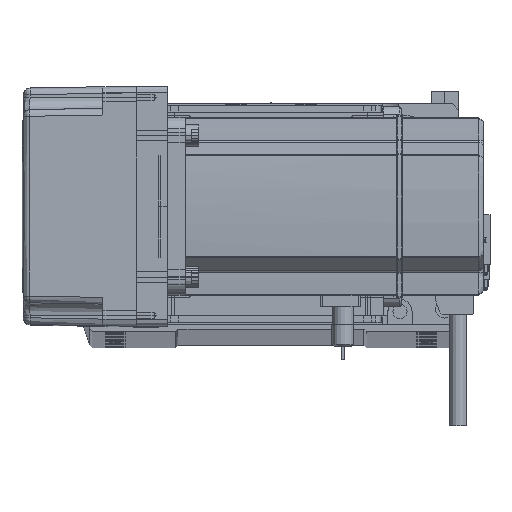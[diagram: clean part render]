
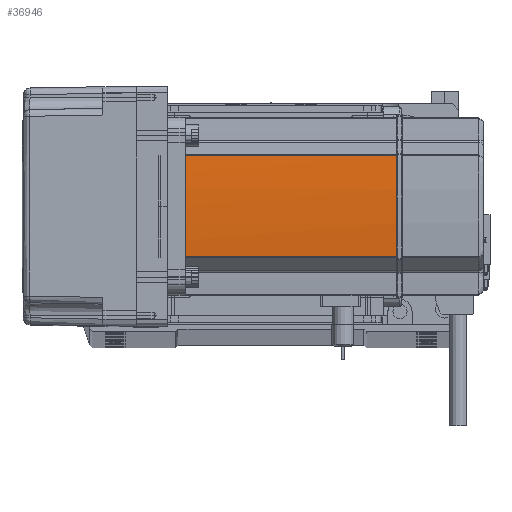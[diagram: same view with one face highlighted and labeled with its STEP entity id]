
A CAD part, top view. The second image highlights one B-rep face of the part: STEP entity #36946.
In plain terms, the highlighted cylindrical face has radius 270 mm (diameter 540 mm), a partial arc.
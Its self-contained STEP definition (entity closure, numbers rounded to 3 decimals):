
#501 = CIRCLE ( 'NONE', #31346, 270. ) ;
#2294 = DIRECTION ( 'NONE',  ( 0., 0., 1. ) ) ;
#4199 = CARTESIAN_POINT ( 'NONE',  ( 40., 0.127, 134. ) ) ;
#4464 = VERTEX_POINT ( 'NONE', #30022 ) ;
#5119 = DIRECTION ( 'NONE',  ( -1., 0., 0. ) ) ;
#6006 = FACE_OUTER_BOUND ( 'NONE', #12716, .T. ) ;
#7831 = CARTESIAN_POINT ( 'NONE',  ( 40., -0.127, 134. ) ) ;
#7976 = AXIS2_PLACEMENT_3D ( 'NONE', #52425, #36136, #9033 ) ;
#8602 = CARTESIAN_POINT ( 'NONE',  ( 39.042, 22.724, 134. ) ) ;
#8785 = CARTESIAN_POINT ( 'NONE',  ( -230., 0., 39. ) ) ;
#9033 = DIRECTION ( 'NONE',  ( -1., 0., 0. ) ) ;
#9258 = ORIENTED_EDGE ( 'NONE', *, *, #16757, .F. ) ;
#10637 = CARTESIAN_POINT ( 'NONE',  ( 39.042, -22.724, 134. ) ) ;
#10955 = ORIENTED_EDGE ( 'NONE', *, *, #68820, .T. ) ;
#11964 = EDGE_CURVE ( 'NONE', #37990, #4464, #57729, .T. ) ;
#12716 = EDGE_LOOP ( 'NONE', ( #10955, #9258, #29397, #34534, #61562, #45984 ) ) ;
#13558 = B_SPLINE_CURVE_WITH_KNOTS ( 'NONE', 3,
 ( #7831, #45952, #25895, #4199 ),
 .UNSPECIFIED., .F., .F.,
 ( 4, 4 ),
 ( 0., 1. ),
 .UNSPECIFIED. ) ;
#14338 = DIRECTION ( 'NONE',  ( 0., 0., -1. ) ) ;
#16757 = EDGE_CURVE ( 'NONE', #45433, #50224, #501, .T. ) ;
#18178 = AXIS2_PLACEMENT_3D ( 'NONE', #24353, #14338, #67901 ) ;
#21982 = AXIS2_PLACEMENT_3D ( 'NONE', #32458, #54657, #5119 ) ;
#24353 = CARTESIAN_POINT ( 'NONE',  ( -230., 0., 134. ) ) ;
#25741 = VECTOR ( 'NONE', #64150, 1000. ) ;
#25895 = CARTESIAN_POINT ( 'NONE',  ( 40., 0.042, 134. ) ) ;
#29397 = ORIENTED_EDGE ( 'NONE', *, *, #54634, .T. ) ;
#30022 = CARTESIAN_POINT ( 'NONE',  ( 40., 0.127, 134. ) ) ;
#31140 = EDGE_CURVE ( 'NONE', #34997, #4464, #13558, .T. ) ;
#31346 = AXIS2_PLACEMENT_3D ( 'NONE', #8785, #46896, #52401 ) ;
#31643 = LINE ( 'NONE', #42522, #25741 ) ;
#32458 = CARTESIAN_POINT ( 'NONE',  ( -230., 0., 134. ) ) ;
#34534 = ORIENTED_EDGE ( 'NONE', *, *, #11964, .T. ) ;
#34997 = VERTEX_POINT ( 'NONE', #40205 ) ;
#36136 = DIRECTION ( 'NONE',  ( 0., 0., -1. ) ) ;
#36946 = ADVANCED_FACE ( 'NONE', ( #6006 ), #69058, .T. ) ;
#37990 = VERTEX_POINT ( 'NONE', #8602 ) ;
#40190 = VECTOR ( 'NONE', #2294, 1000. ) ;
#40205 = CARTESIAN_POINT ( 'NONE',  ( 40., -0.127, 134. ) ) ;
#41303 = EDGE_CURVE ( 'NONE', #34997, #43083, #46799, .T. ) ;
#42522 = CARTESIAN_POINT ( 'NONE',  ( 39.042, -22.724, 58. ) ) ;
#43083 = VERTEX_POINT ( 'NONE', #10637 ) ;
#45433 = VERTEX_POINT ( 'NONE', #46012 ) ;
#45952 = CARTESIAN_POINT ( 'NONE',  ( 40., -0.042, 134. ) ) ;
#45984 = ORIENTED_EDGE ( 'NONE', *, *, #41303, .T. ) ;
#46012 = CARTESIAN_POINT ( 'NONE',  ( 39.042, 22.724, 39. ) ) ;
#46799 = CIRCLE ( 'NONE', #18178, 270. ) ;
#46896 = DIRECTION ( 'NONE',  ( 0., 0., -1. ) ) ;
#50224 = VERTEX_POINT ( 'NONE', #69811 ) ;
#52137 = CARTESIAN_POINT ( 'NONE',  ( 39.042, 22.724, 58. ) ) ;
#52401 = DIRECTION ( 'NONE',  ( -1., 0., 0. ) ) ;
#52425 = CARTESIAN_POINT ( 'NONE',  ( -230., 0., 58. ) ) ;
#53813 = LINE ( 'NONE', #52137, #40190 ) ;
#54634 = EDGE_CURVE ( 'NONE', #45433, #37990, #53813, .T. ) ;
#54657 = DIRECTION ( 'NONE',  ( 0., 0., -1. ) ) ;
#57729 = CIRCLE ( 'NONE', #21982, 270. ) ;
#61562 = ORIENTED_EDGE ( 'NONE', *, *, #31140, .F. ) ;
#64150 = DIRECTION ( 'NONE',  ( 0., 0., -1. ) ) ;
#67901 = DIRECTION ( 'NONE',  ( -1., 0., 0. ) ) ;
#68820 = EDGE_CURVE ( 'NONE', #43083, #50224, #31643, .T. ) ;
#69058 = CYLINDRICAL_SURFACE ( 'NONE', #7976, 270. ) ;
#69811 = CARTESIAN_POINT ( 'NONE',  ( 39.042, -22.724, 39. ) ) ;
